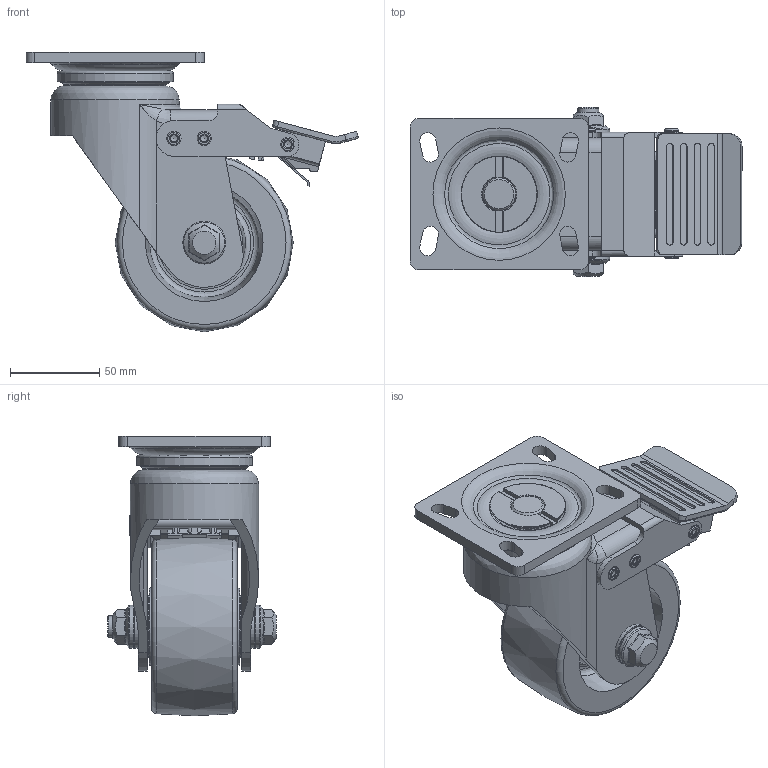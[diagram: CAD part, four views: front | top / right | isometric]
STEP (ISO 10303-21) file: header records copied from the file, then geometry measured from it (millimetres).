
FILE_DESCRIPTION((''),'2;1');
FILE_NAME('C:\Documents and Settings\Administrator\바탕 화면\3D STEP\PH-SERIES\PH-100\PH-100B-SF.stp','2010-12-27T14:45:43',('Administrator'),(''),'Autodesk Inventor 2009','Autodesk Inventor 2009','');
FILE_SCHEMA(('AUTOMOTIVE_DESIGN { 1 0 10303 214 1 1 1 1 }'));
Length unit declared in the file: millimetre
Products named in the file (1): PH-100B-SF
Bounding box: 186.27 x 94.8 x 156.88 mm (x, y, z)
Volume: 545956.6 mm3; surface area: 174530.7 mm2
Topology: 11 solids, 14 shells, 643 faces, 1675 edges, 1072 vertices
Faces by surface type: plane 253, cylinder 231, torus 66, bspline 58, cone 27, sphere 8
Full cylindrical faces by diameter (mm): 3 x1, 4 x6, 5 x1, 6 x3, 6.1 x10, 6.2 x2, 8 x6, 12 x1, 15 x2, 15.2 x2, 18.5 x2, 21.5 x1, 22 x1, 24 x4, 29.9 x1, 30 x1, 30.5 x2, 31 x1, 31.615 x2, 35 x2, 41 x1, 42.8 x2, 44 x2, 48.961 x2, 61 x1, 62 x1, 63.14 x1, 65.14 x1, 72 x1
Entity records: 21911 total; most frequent: CARTESIAN_POINT 7058, DIRECTION 3087, ORIENTED_EDGE 2876, EDGE_CURVE 1438, AXIS2_PLACEMENT_3D 1187, VERTEX_POINT 1001, EDGE_LOOP 901, VECTOR 713
